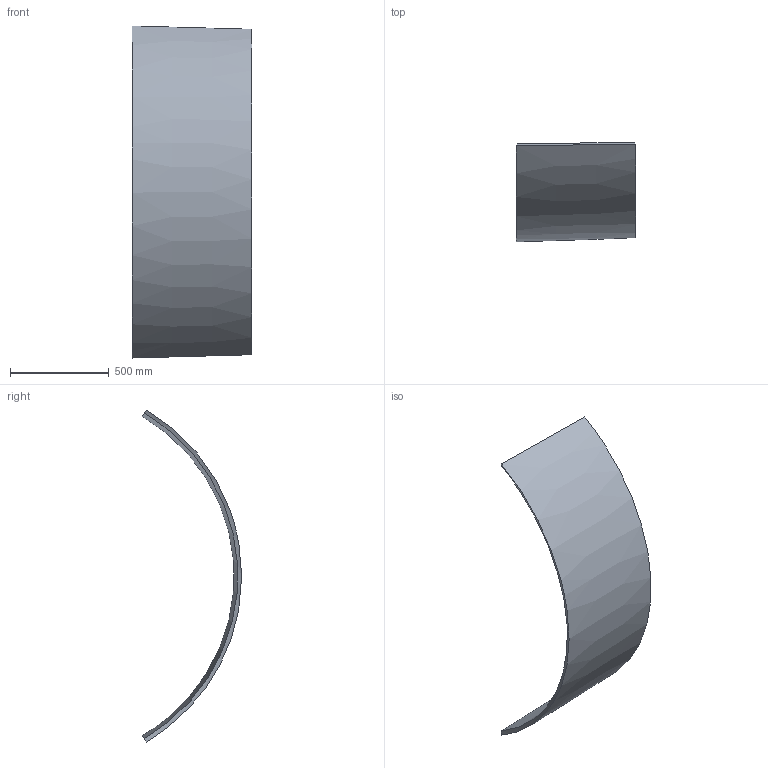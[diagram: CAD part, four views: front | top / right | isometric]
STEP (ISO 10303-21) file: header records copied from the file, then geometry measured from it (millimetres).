
FILE_DESCRIPTION (( 'STEP AP214' ), '1' );
FILE_NAME ('P15.STEP', '2025-01-09T19:43:25', ( '' ), ( '' ), 'SwSTEP 2.0', 'SolidWorks 2024', '' );
FILE_SCHEMA (( 'AUTOMOTIVE_DESIGN' ));
Length unit declared in the file: inch
Products named in the file (1): P15
Bounding box: 606.42 x 503.31 x 1681.14 mm (x, y, z)
Volume: 22719931.7 mm3; surface area: 2490652.6 mm2
Topology: 1 solids, 1 shells, 6 faces, 12 edges, 8 vertices
Faces by surface type: bspline 6
Entity records: 1543 total; most frequent: CARTESIAN_POINT 1429, ORIENTED_EDGE 24, EDGE_CURVE 12, B_SPLINE_CURVE_WITH_KNOTS 12, VERTEX_POINT 8, FACE_OUTER_BOUND 6, EDGE_LOOP 6, ADVANCED_FACE 6
